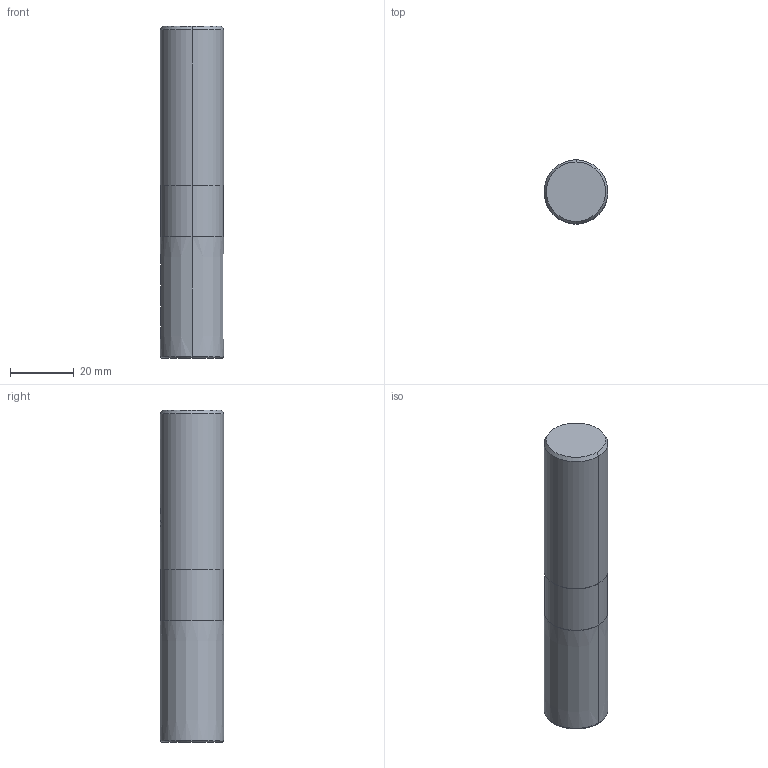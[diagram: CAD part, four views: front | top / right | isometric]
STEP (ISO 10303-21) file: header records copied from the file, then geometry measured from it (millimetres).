
FILE_DESCRIPTION(('no description'),'unknown implementation level');
FILE_NAME('solide41K8qc5uWGqYv8CCzqYuQqZRjQ_1.STP',' ',('CIMSOURCE GmbH'),('CADClick - KiM GmbH - www.kimweb.de'),'unknown preprocess','ACIS','unknown authorization');
FILE_SCHEMA(('automotive_design'));
Length unit declared in the file: millimetre
Products named in the file (2): 1; 2
Bounding box: 20 x 20 x 104 mm (x, y, z)
Volume: 32491.8 mm3; surface area: 7733.2 mm2
Topology: 2 solids, 2 shells, 29 faces, 71 edges, 46 vertices
Faces by surface type: plane 12, cylinder 11, cone 4, torus 2
Entity records: 2097 total; most frequent: CARTESIAN_POINT 531, DIRECTION 152, STYLED_ITEM 148, PRESENTATION_STYLE_ASSIGNMENT 148, COLOUR_RGB 148, ORIENTED_EDGE 142, EDGE_CURVE 71, CURVE_STYLE 71
